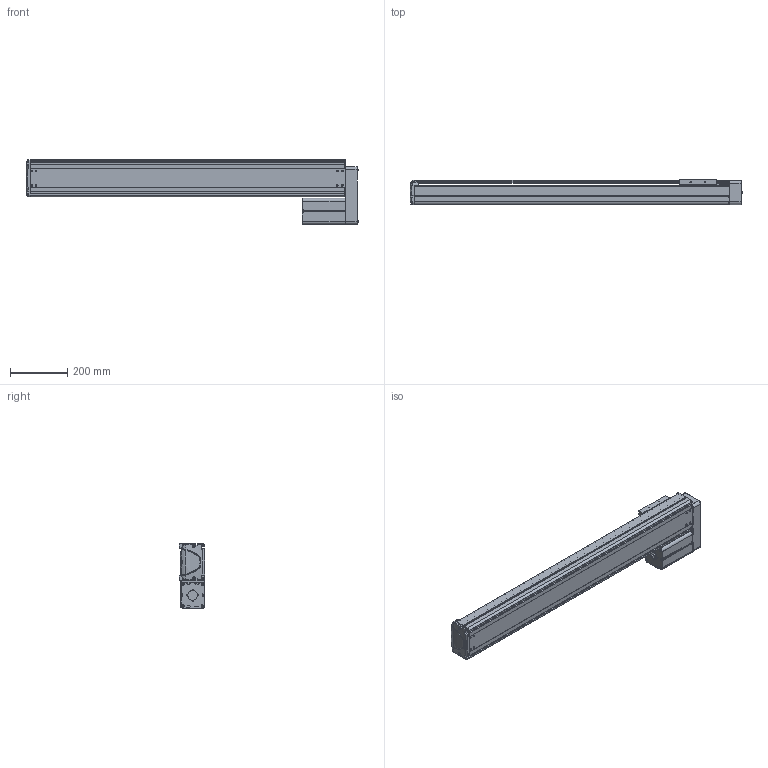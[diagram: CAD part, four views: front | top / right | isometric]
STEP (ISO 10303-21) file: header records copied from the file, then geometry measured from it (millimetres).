
FILE_DESCRIPTION((''),'2;1');
FILE_NAME('BE30E-UL-M_N-90_IGS_PRT','2017-06-17T',(' '),(''),'PRO/ENGINEER BY PARAMETRIC TECHNOLOGY CORPORATION, 2015030','PRO/ENGINEER BY PARAMETRIC TECHNOLOGY CORPORATION, 2015030','');
FILE_SCHEMA(('CONFIG_CONTROL_DESIGN'));
Length unit declared in the file: millimetre
Products named in the file (1): BE30E-UL-M_N-90_IGS_PRT
Bounding box: 1161.9 x 89.8 x 227 mm (x, y, z)
Volume: 3810751.3 mm3; surface area: 1625389.2 mm2
Topology: 2 solids, 125 shells, 2039 faces, 5491 edges, 3567 vertices
Faces by surface type: plane 992, cylinder 855, cone 103, torus 37, bspline 28, sphere 24
Entity records: 65998 total; most frequent: CARTESIAN_POINT 13968, DIRECTION 11001, ORIENTED_EDGE 10439, EDGE_CURVE 5453, AXIS2_PLACEMENT_3D 3884, VERTEX_POINT 3567, VECTOR 3233, LINE 3233
